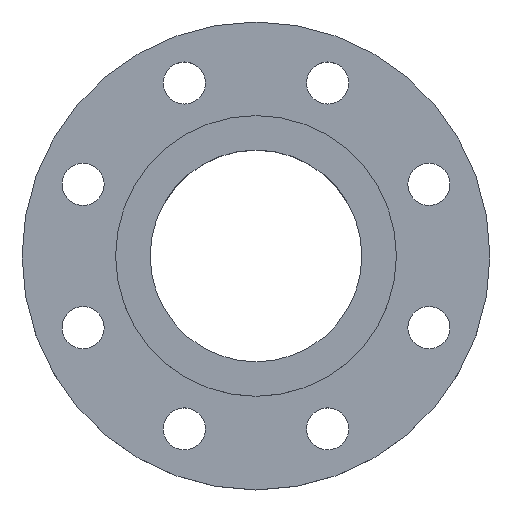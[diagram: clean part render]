
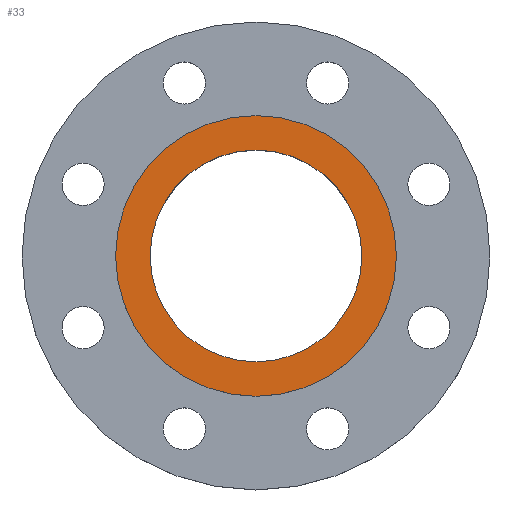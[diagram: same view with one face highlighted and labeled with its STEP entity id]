
A CAD part, top view. The second image highlights one B-rep face of the part: STEP entity #33.
In plain terms, the highlighted planar face has unit normal (0, 0, 1).
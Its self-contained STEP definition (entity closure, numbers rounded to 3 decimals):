
#20 = EDGE_CURVE ( 'NONE', #817, #567, #679, .T. ) ;
#26 = AXIS2_PLACEMENT_3D ( 'NONE', #374, #373, #372 ) ;
#33 = ADVANCED_FACE ( 'NONE', ( #709, #714 ), #731, .T. ) ;
#64 = AXIS2_PLACEMENT_3D ( 'NONE', #733, #735, #737 ) ;
#137 = DIRECTION ( 'NONE',  ( 1., 0., 0. ) ) ;
#138 = DIRECTION ( 'NONE',  ( 0., 0., 1. ) ) ;
#140 = CARTESIAN_POINT ( 'NONE',  ( 0., 0., 0. ) ) ;
#189 = CARTESIAN_POINT ( 'NONE',  ( 60., 0., 0. ) ) ;
#190 = CARTESIAN_POINT ( 'NONE',  ( 45.25, 0., 0. ) ) ;
#209 = CIRCLE ( 'NONE', #26, 45.25 ) ;
#265 = CARTESIAN_POINT ( 'NONE',  ( -45.25, 0., 0. ) ) ;
#313 = CARTESIAN_POINT ( 'NONE',  ( -60., 0., 0. ) ) ;
#372 = DIRECTION ( 'NONE',  ( 1., 0., 0. ) ) ;
#373 = DIRECTION ( 'NONE',  ( 0., 0., 1. ) ) ;
#374 = CARTESIAN_POINT ( 'NONE',  ( 0., 0., 0. ) ) ;
#402 = EDGE_CURVE ( 'NONE', #567, #817, #627, .T. ) ;
#434 = DIRECTION ( 'NONE',  ( -1., 0., 0. ) ) ;
#435 = DIRECTION ( 'NONE',  ( 0., 0., -1. ) ) ;
#436 = CARTESIAN_POINT ( 'NONE',  ( 0., 0., 0. ) ) ;
#461 = AXIS2_PLACEMENT_3D ( 'NONE', #140, #138, #137 ) ;
#490 = AXIS2_PLACEMENT_3D ( 'NONE', #680, #681, #683 ) ;
#533 = EDGE_CURVE ( 'NONE', #721, #815, #209, .T. ) ;
#558 = CIRCLE ( 'NONE', #461, 45.25 ) ;
#567 = VERTEX_POINT ( 'NONE', #313 ) ;
#592 = EDGE_LOOP ( 'NONE', ( #933, #934 ) ) ;
#613 = AXIS2_PLACEMENT_3D ( 'NONE', #436, #435, #434 ) ;
#616 = EDGE_LOOP ( 'NONE', ( #936, #938 ) ) ;
#627 = CIRCLE ( 'NONE', #613, 60. ) ;
#679 = CIRCLE ( 'NONE', #490, 60. ) ;
#680 = CARTESIAN_POINT ( 'NONE',  ( 0., 0., 0. ) ) ;
#681 = DIRECTION ( 'NONE',  ( 0., 0., -1. ) ) ;
#683 = DIRECTION ( 'NONE',  ( -1., 0., 0. ) ) ;
#709 = FACE_BOUND ( 'NONE', #592, .T. ) ;
#714 = FACE_OUTER_BOUND ( 'NONE', #616, .T. ) ;
#721 = VERTEX_POINT ( 'NONE', #265 ) ;
#731 = PLANE ( 'NONE',  #64 ) ;
#733 = CARTESIAN_POINT ( 'NONE',  ( 0., 0., 0. ) ) ;
#735 = DIRECTION ( 'NONE',  ( 0., 0., 1. ) ) ;
#737 = DIRECTION ( 'NONE',  ( 1., 0., 0. ) ) ;
#815 = VERTEX_POINT ( 'NONE', #190 ) ;
#817 = VERTEX_POINT ( 'NONE', #189 ) ;
#882 = EDGE_CURVE ( 'NONE', #815, #721, #558, .T. ) ;
#933 = ORIENTED_EDGE ( 'NONE', *, *, #882, .F. ) ;
#934 = ORIENTED_EDGE ( 'NONE', *, *, #533, .F. ) ;
#936 = ORIENTED_EDGE ( 'NONE', *, *, #402, .F. ) ;
#938 = ORIENTED_EDGE ( 'NONE', *, *, #20, .F. ) ;
